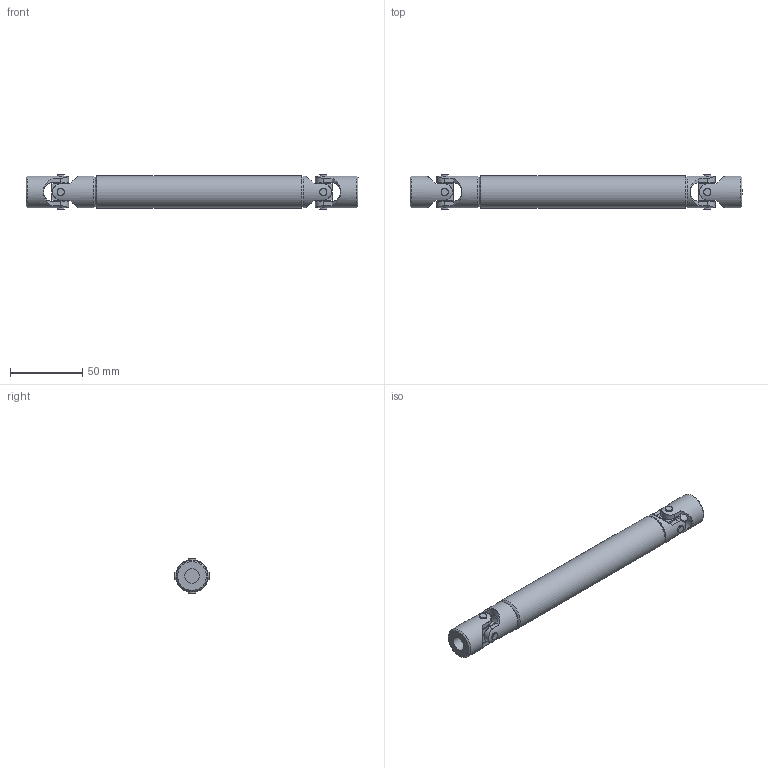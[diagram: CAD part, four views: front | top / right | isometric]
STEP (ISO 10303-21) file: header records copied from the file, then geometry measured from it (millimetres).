
FILE_DESCRIPTION(/* description */ ('EXTENSIBLE TRANSIMISSIONS Series G DIN 808 -2-'),/* implementation_level */ '2;1');
FILE_NAME(/* name */ '\\SRV2016\societa\Stefano\Disegni 3D\0Catalogo 3D\15Trasmissioni speciali XA\Ø22_!03XA\03XA.stp',/* time_stamp */ '2023-05-17T08:36:06+02:00',/* author */ ('acquisti'),/* organization */ ('MARIOFERRI'),/* preprocessor_version */ 'ST-DEVELOPER v15.6',/* originating_system */ 'Autodesk Inventor 2015',/* authorisation */ '');
FILE_SCHEMA (('AUTOMOTIVE_DESIGN { 1 0 10303 214 3 1 1 }'));
Length unit declared in the file: millimetre
Products named in the file (5): 03X SFE; !03X_SP LAI; !03X_SP LCI; 03X MOS; Ø22_!03XA
Assembly tree (6 placements, depth 2):
  Ø22_!03XA
    03X SFE  x2
    !03X_SP LAI
    !03X_SP LCI
    03X MOS  x2
Bounding box: 230 x 23.8 x 23.8 mm (x, y, z)
Volume: 65442.5 mm3; surface area: 37090.2 mm2
Topology: 6 solids, 6 shells, 182 faces, 471 edges, 317 vertices
Faces by surface type: plane 92, cylinder 61, cone 25, torus 4
Full cylindrical faces by diameter (mm): 5 x8, 10 x11, 11.5 x4, 18 x1, 22 x4, 22.5 x1
Entity records: 4881 total; most frequent: CARTESIAN_POINT 1465, DIRECTION 684, ORIENTED_EDGE 670, EDGE_CURVE 335, AXIS2_PLACEMENT_3D 270, VERTEX_POINT 241, EDGE_LOOP 188, LINE 144
